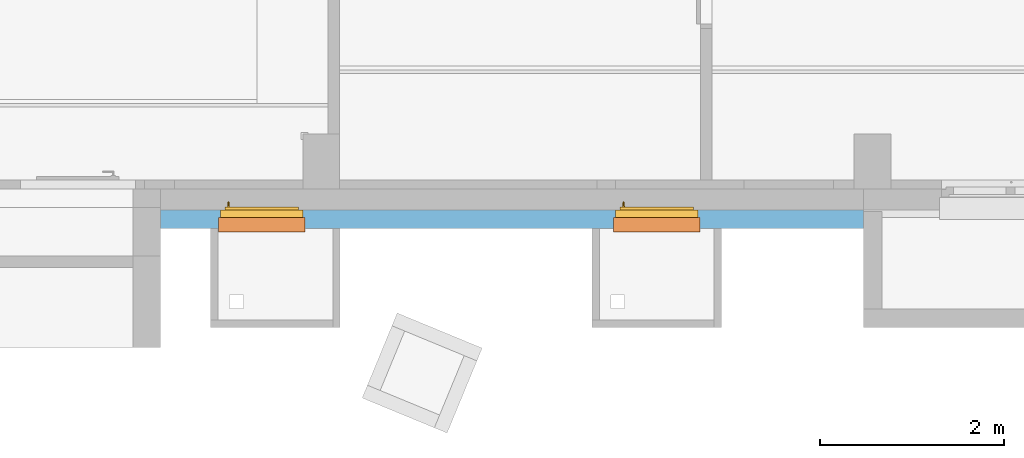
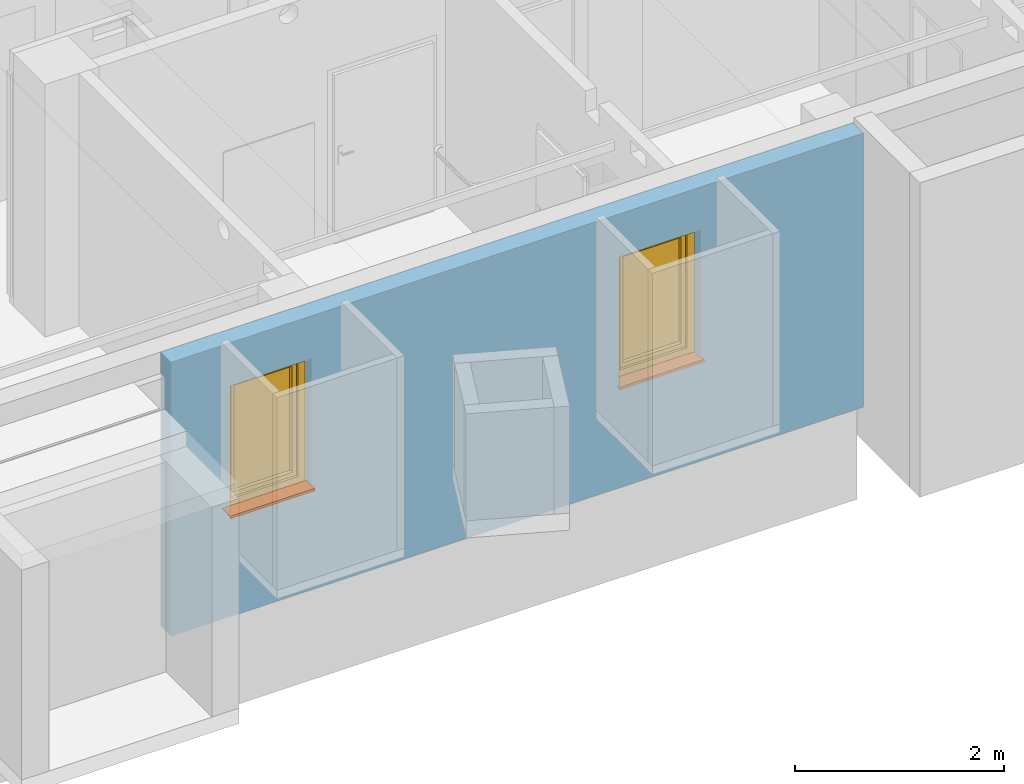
# One storey, part 50 of 84: 3 proxies, 2 windows, 2 openings, plus 1 element that does not belong to this part.
"""IFC4 building model written with IfcOpenShell, lengths in metres."""

from ifc_helpers import new_model, entity, si_unit, converted_unit, derived_unit, frame, frame_2d, origin, origin_with_axes, place, context, subcontext, project, spatial, polyline, rectangle, outline, extrude, closed_shell, open_shell, faceted_brep, surface_model, source, transform, mapped, material, layer, layer_set, layer_usage, element, fill, save


model = new_model("IFC4")

# Units and contexts
model_context = context("Model", 3, precision=1e-05, world=origin())
body_context = subcontext(model_context, "Body", "Model", "MODEL_VIEW")
ifc_project = project(units=[si_unit("LENGTHUNIT", "METRE"), si_unit("AREAUNIT", "SQUARE_METRE"), si_unit("VOLUMEUNIT", "CUBIC_METRE"), si_unit("MASSUNIT", "GRAM", prefix="KILO"), converted_unit("PLANEANGLEUNIT", "DEGREE", entity("IfcPlaneAngleMeasure", 0.0174532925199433), si_unit("PLANEANGLEUNIT", "RADIAN"), dimensions=[0, 0, 0, 0, 0, 0, 0]), derived_unit("THERMALTRANSMITTANCEUNIT", [(si_unit("POWERUNIT", "WATT"), 1), (si_unit("THERMODYNAMICTEMPERATUREUNIT", "KELVIN"), -1), (si_unit("LENGTHUNIT", "METRE"), -2)]), derived_unit("VOLUMETRICFLOWRATEUNIT", [(si_unit("LENGTHUNIT", "METRE"), 3), (converted_unit("TIMEUNIT", "hour", entity("IfcTimeMeasure", 3600.0), si_unit("TIMEUNIT", "SECOND"), dimensions=[0, 0, 1, 0, 0, 0, 0]), -1), (si_unit("LENGTHUNIT", "METRE"), -1)])], contexts=[model_context])

# Site, building, storey
site_placement = place(None, origin())
site = spatial("IfcSite", under=ifc_project, at=site_placement, Name="3. ASŘ", CompositionType="ELEMENT")
building_placement = place(site_placement, origin())
building = spatial("IfcBuilding", under=site, at=building_placement, Name="Pavilon C", CompositionType="ELEMENT")
storey_placement = place(building_placement, frame((0.0, 0.0, -3.3)))
storey = spatial("IfcBuildingStorey", under=building, at=storey_placement, Name="Půdorys 1.PP", CompositionType="ELEMENT", Elevation=-3.3)

# Wall, openings, windows, proxies
ifc_material_1 = material(Name="PERIMETR")
ifc_layer = layer(ifc_material_1, 0.2)
ifc_layer_set = layer_set([ifc_layer])
ifc_layer_usage = layer_usage(ifc_layer_set, "AXIS2", "POSITIVE", 0.0)
wall_placement = place(storey_placement, frame((11.9, 0.375000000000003, 0.0), z_axis=(0.0, 0.0, 1.0), x_axis=(-1.0, 0.0, 0.0)))
wall = element("IfcWall", 1, at=wall_placement, inside=storey, material=ifc_layer_usage, Name="PERIMETR", context=body_context, shape_type="SweptSolid", body=[
    extrude(rectangle(XDim=7.65, YDim=0.2, at=frame_2d((3.825, 0.1), x_axis=(1.0, 0.0))), origin_with_axes(), (0.0, 0.0, 1.0), 3.2),
])
opening_1_placement = place(wall_placement, frame((2.69999999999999, 0.2, 1.2), z_axis=(0.0, -1.0, 0.0), x_axis=(0.0, 0.0, 1.0)))
opening_1 = element("IfcOpeningElement", 2, at=opening_1_placement, cuts=wall, Name="Okenní otvor", ObjectType="Opening", context=body_context, shape_type="SweptSolid", body=[
    extrude(outline(polyline([(0.0, 0.9), (1.5, 0.9), (1.5, 0.0), (0.0, 0.0), (0.0, 0.9)])), origin_with_axes(), (0.0, 0.0, 1.0), 0.2),
])
opening_2_placement = place(wall_placement, frame((7.0, 0.2, 1.2), z_axis=(0.0, -1.0, 0.0), x_axis=(0.0, 0.0, 1.0)))
opening_2 = element("IfcOpeningElement", 3, at=opening_2_placement, cuts=wall, Name="Okenní otvor", ObjectType="Opening", context=body_context, shape_type="SweptSolid", body=[
    extrude(outline(polyline([(0.0, 0.9), (1.5, 0.9), (1.5, 0.0), (0.0, 0.0), (0.0, 0.9)])), origin_with_axes(), (0.0, 0.0, 1.0), 0.2),
])
shared_shape_1 = source(origin_with_axes(), body_context, "Body", "SurfaceModel", [
    surface_model("IfcShellBasedSurfaceModel", [(0.0, 0.0820000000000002, 1.5), (0.0, 0.082, -5.02105187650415e-18), (0.08, 0.082, -5.02105187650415e-18), (0.08, 0.0820000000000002, 1.5), (0.0, 0.0, 5.02105187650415e-18), (0.0, 1.84741111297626e-16, 1.5), (0.08, 1.84741111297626e-16, 1.5), (0.08, 0.0, 5.02105187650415e-18)], [closed_shell([[[0, 1, 2, 3]], [[4, 5, 6, 7]], [[1, 0, 5, 4]], [[2, 1, 4, 7]], [[3, 2, 7, 6]], [[0, 3, 6, 5]]], orient=[[False], [False], [False], [False], [False], [False]])]),
    surface_model("IfcShellBasedSurfaceModel", [(0.82, 0.0820000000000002, 1.5), (0.82, 0.082, -5.02105187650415e-18), (0.9, 0.082, -5.02105187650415e-18), (0.9, 0.0820000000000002, 1.5), (0.82, 0.0, 5.02105187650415e-18), (0.82, 1.84741111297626e-16, 1.5), (0.9, 1.84741111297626e-16, 1.5), (0.9, 0.0, 5.02105187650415e-18)], [closed_shell([[[0, 1, 2, 3]], [[4, 5, 6, 7]], [[1, 0, 5, 4]], [[2, 1, 4, 7]], [[3, 2, 7, 6]], [[0, 3, 6, 5]]], orient=[[False], [False], [False], [False], [False], [False]])]),
    surface_model("IfcShellBasedSurfaceModel", [(0.08, 0.082, 0.08), (0.08, 0.082, -5.02105187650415e-18), (0.82, 0.082, -5.02105187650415e-18), (0.82, 0.082, 0.08), (0.08, 0.0, 5.02105187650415e-18), (0.08, 1.4210854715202e-17, 0.08), (0.82, 1.4210854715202e-17, 0.08), (0.82, 0.0, 5.02105187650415e-18)], [closed_shell([[[0, 1, 2, 3]], [[4, 5, 6, 7]], [[1, 0, 5, 4]], [[2, 1, 4, 7]], [[3, 2, 7, 6]], [[0, 3, 6, 5]]], orient=[[False], [False], [False], [False], [False], [False]])]),
    surface_model("IfcShellBasedSurfaceModel", [(0.08, 0.0820000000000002, 1.5), (0.08, 0.0820000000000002, 1.42), (0.82, 0.0820000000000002, 1.42), (0.82, 0.0820000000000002, 1.5), (0.08, 1.70530256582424e-16, 1.42), (0.08, 1.84741111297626e-16, 1.5), (0.82, 1.84741111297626e-16, 1.5), (0.82, 1.70530256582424e-16, 1.42)], [closed_shell([[[0, 1, 2, 3]], [[4, 5, 6, 7]], [[1, 0, 5, 4]], [[2, 1, 4, 7]], [[3, 2, 7, 6]], [[0, 3, 6, 5]]], orient=[[False], [False], [False], [False], [False], [False]])]),
    surface_model("IfcShellBasedSurfaceModel", [(0.05, 0.112, 1.45), (0.05, 0.112, 0.05), (0.13, 0.112, 0.05), (0.13, 0.112, 1.45), (0.05, 0.027, 0.05), (0.05, 0.0270000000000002, 1.45), (0.13, 0.0270000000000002, 1.45), (0.13, 0.027, 0.05)], [closed_shell([[[0, 1, 2, 3]], [[4, 5, 6, 7]], [[1, 0, 5, 4]], [[2, 1, 4, 7]], [[3, 2, 7, 6]], [[0, 3, 6, 5]]], orient=[[False], [False], [False], [False], [False], [False]])]),
    surface_model("IfcShellBasedSurfaceModel", [(0.77, 0.112, 1.45), (0.77, 0.112, 0.05), (0.85, 0.112, 0.05), (0.85, 0.112, 1.45), (0.77, 0.027, 0.05), (0.77, 0.0270000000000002, 1.45), (0.85, 0.0270000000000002, 1.45), (0.85, 0.027, 0.05)], [closed_shell([[[0, 1, 2, 3]], [[4, 5, 6, 7]], [[1, 0, 5, 4]], [[2, 1, 4, 7]], [[3, 2, 7, 6]], [[0, 3, 6, 5]]], orient=[[False], [False], [False], [False], [False], [False]])]),
    surface_model("IfcShellBasedSurfaceModel", [(0.13, 0.112, 0.13), (0.13, 0.112, 0.05), (0.77, 0.112, 0.05), (0.77, 0.112, 0.13), (0.13, 0.027, 0.05), (0.13, 0.027, 0.13), (0.77, 0.027, 0.13), (0.77, 0.027, 0.05)], [closed_shell([[[0, 1, 2, 3]], [[4, 5, 6, 7]], [[1, 0, 5, 4]], [[2, 1, 4, 7]], [[3, 2, 7, 6]], [[0, 3, 6, 5]]], orient=[[False], [False], [False], [False], [False], [False]])]),
    surface_model("IfcShellBasedSurfaceModel", [(0.13, 0.112, 1.45), (0.13, 0.112, 1.37), (0.77, 0.112, 1.37), (0.77, 0.112, 1.45), (0.13, 0.0270000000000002, 1.37), (0.13, 0.0270000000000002, 1.45), (0.77, 0.0270000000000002, 1.45), (0.77, 0.0270000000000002, 1.37)], [closed_shell([[[0, 1, 2, 3]], [[4, 5, 6, 7]], [[1, 0, 5, 4]], [[2, 1, 4, 7]], [[3, 2, 7, 6]], [[0, 3, 6, 5]]], orient=[[False], [False], [False], [False], [False], [False]])]),
    surface_model("IfcShellBasedSurfaceModel", [(0.0775, 0.112, 0.77), (0.1025, 0.112, 0.77), (0.1025, 0.112, 0.73), (0.0775, 0.112, 0.73), (0.0775, 0.122, 0.73), (0.1025, 0.122, 0.73), (0.1025, 0.122, 0.77), (0.0775, 0.122, 0.77)], [closed_shell([[[0, 1, 2, 3]], [[4, 5, 6, 7]], [[3, 4, 7, 0]], [[2, 5, 4, 3]], [[1, 6, 5, 2]], [[0, 7, 6, 1]]], orient=[[False], [False], [False], [False], [False], [False]])]),
    surface_model("IfcShellBasedSurfaceModel", [(0.1, 0.122, 0.75), (0.0986602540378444, 0.122, 0.745), (0.095, 0.122, 0.741339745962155), (0.09, 0.122, 0.74), (0.085, 0.122, 0.741339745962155), (0.0813397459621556, 0.122, 0.745), (0.08, 0.122, 0.75), (0.0813397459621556, 0.122, 0.755), (0.085, 0.122, 0.758660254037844), (0.09, 0.122, 0.76), (0.095, 0.122, 0.758660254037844), (0.0986602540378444, 0.122, 0.755), (0.0986602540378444, 0.167, 0.755), (0.1, 0.162, 0.75), (0.095, 0.170660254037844, 0.758660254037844), (0.09, 0.172, 0.76), (0.085, 0.170660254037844, 0.758660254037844), (0.0813397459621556, 0.167, 0.755), (0.08, 0.162, 0.75), (0.0813397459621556, 0.157, 0.745), (0.085, 0.153339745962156, 0.741339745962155), (0.09, 0.152, 0.74), (0.095, 0.153339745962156, 0.741339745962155), (0.0986602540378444, 0.157, 0.745), (0.0986602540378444, 0.167, 0.635), (0.1, 0.162, 0.635), (0.095, 0.170660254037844, 0.635), (0.09, 0.172, 0.635), (0.085, 0.170660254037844, 0.635), (0.0813397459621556, 0.167, 0.635), (0.08, 0.162, 0.635), (0.0813397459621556, 0.157, 0.635), (0.085, 0.153339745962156, 0.635), (0.09, 0.152, 0.635), (0.095, 0.153339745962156, 0.635), (0.0986602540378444, 0.157, 0.635)], [open_shell([[[0, 1, 2, 3, 4, 5, 6, 7, 8, 9, 10, 11]], [[0, 11, 12, 13]], [[11, 10, 14, 12]], [[10, 9, 15, 14]], [[9, 8, 16, 15]], [[8, 7, 17, 16]], [[7, 6, 18, 17]], [[6, 5, 19, 18]], [[5, 4, 20, 19]], [[4, 3, 21, 20]], [[3, 2, 22, 21]], [[2, 1, 23, 22]], [[1, 0, 13, 23]], [[13, 12, 24, 25]], [[12, 14, 26, 24]], [[14, 15, 27, 26]], [[15, 16, 28, 27]], [[16, 17, 29, 28]], [[17, 18, 30, 29]], [[18, 19, 31, 30]], [[19, 20, 32, 31]], [[20, 21, 33, 32]], [[21, 22, 34, 33]], [[22, 23, 35, 34]], [[23, 13, 25, 35]]], orient=[[False], [False], [False], [False], [False], [False], [False], [False], [False], [False], [False], [False], [False], [False], [False], [False], [False], [False], [False], [False], [False], [False], [False], [False], [False]])]),
    surface_model("IfcShellBasedSurfaceModel", [(0.13, 0.0695, 0.13), (0.77, 0.0695, 0.13), (0.77, 0.0695000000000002, 1.37), (0.13, 0.0695000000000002, 1.37)], [open_shell([[[0, 1, 2, 3]]], orient=[[False]])]),
])
window_1_placement = place(opening_1_placement, frame((0.0, 0.0, 0.118), z_axis=(1.0, 0.0, 0.0), x_axis=(0.0, 1.0, 0.0)))
window_1 = element("IfcWindow", 4, at=window_1_placement, inside=storey, Name="I.OP10", OverallHeight=1.5, OverallWidth=0.9, PartitioningType="USERDEFINED", PredefinedType="WINDOW", context=body_context, shape_type="MappedRepresentation", body=[
    mapped(shared_shape_1, transform((0.0, 0.0, 0.0), x_axis=(1.0, 0.0, 0.0), y_axis=(0.0, 1.0, 0.0), z_axis=(0.0, 0.0, 1.0), scale=1.0)),
])
fill(opening_1, window_1)
shared_shape_2 = source(origin_with_axes(), body_context, "Body", "SurfaceModel", [
    surface_model("IfcShellBasedSurfaceModel", [(0.0, 0.0820000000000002, 1.5), (0.0, 0.082, -5.02105187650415e-18), (0.08, 0.082, -5.02105187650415e-18), (0.08, 0.0820000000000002, 1.5), (0.0, 0.0, 5.02105187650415e-18), (0.0, 1.84741111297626e-16, 1.5), (0.08, 1.84741111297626e-16, 1.5), (0.08, 0.0, 5.02105187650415e-18)], [closed_shell([[[0, 1, 2, 3]], [[4, 5, 6, 7]], [[1, 0, 5, 4]], [[2, 1, 4, 7]], [[3, 2, 7, 6]], [[0, 3, 6, 5]]], orient=[[False], [False], [False], [False], [False], [False]])]),
    surface_model("IfcShellBasedSurfaceModel", [(0.82, 0.0820000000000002, 1.5), (0.82, 0.082, -5.02105187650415e-18), (0.9, 0.082, -5.02105187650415e-18), (0.9, 0.0820000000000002, 1.5), (0.82, 0.0, 5.02105187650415e-18), (0.82, 1.84741111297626e-16, 1.5), (0.9, 1.84741111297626e-16, 1.5), (0.9, 0.0, 5.02105187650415e-18)], [closed_shell([[[0, 1, 2, 3]], [[4, 5, 6, 7]], [[1, 0, 5, 4]], [[2, 1, 4, 7]], [[3, 2, 7, 6]], [[0, 3, 6, 5]]], orient=[[False], [False], [False], [False], [False], [False]])]),
    surface_model("IfcShellBasedSurfaceModel", [(0.08, 0.082, 0.08), (0.08, 0.082, -5.02105187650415e-18), (0.82, 0.082, -5.02105187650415e-18), (0.82, 0.082, 0.08), (0.08, 0.0, 5.02105187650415e-18), (0.08, 1.4210854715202e-17, 0.08), (0.82, 1.4210854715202e-17, 0.08), (0.82, 0.0, 5.02105187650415e-18)], [closed_shell([[[0, 1, 2, 3]], [[4, 5, 6, 7]], [[1, 0, 5, 4]], [[2, 1, 4, 7]], [[3, 2, 7, 6]], [[0, 3, 6, 5]]], orient=[[False], [False], [False], [False], [False], [False]])]),
    surface_model("IfcShellBasedSurfaceModel", [(0.08, 0.0820000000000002, 1.5), (0.08, 0.0820000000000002, 1.42), (0.82, 0.0820000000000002, 1.42), (0.82, 0.0820000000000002, 1.5), (0.08, 1.70530256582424e-16, 1.42), (0.08, 1.84741111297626e-16, 1.5), (0.82, 1.84741111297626e-16, 1.5), (0.82, 1.70530256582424e-16, 1.42)], [closed_shell([[[0, 1, 2, 3]], [[4, 5, 6, 7]], [[1, 0, 5, 4]], [[2, 1, 4, 7]], [[3, 2, 7, 6]], [[0, 3, 6, 5]]], orient=[[False], [False], [False], [False], [False], [False]])]),
    surface_model("IfcShellBasedSurfaceModel", [(0.05, 0.112, 1.45), (0.05, 0.112, 0.05), (0.13, 0.112, 0.05), (0.13, 0.112, 1.45), (0.05, 0.027, 0.05), (0.05, 0.0270000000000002, 1.45), (0.13, 0.0270000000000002, 1.45), (0.13, 0.027, 0.05)], [closed_shell([[[0, 1, 2, 3]], [[4, 5, 6, 7]], [[1, 0, 5, 4]], [[2, 1, 4, 7]], [[3, 2, 7, 6]], [[0, 3, 6, 5]]], orient=[[False], [False], [False], [False], [False], [False]])]),
    surface_model("IfcShellBasedSurfaceModel", [(0.77, 0.112, 1.45), (0.77, 0.112, 0.05), (0.85, 0.112, 0.05), (0.85, 0.112, 1.45), (0.77, 0.027, 0.05), (0.77, 0.0270000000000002, 1.45), (0.85, 0.0270000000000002, 1.45), (0.85, 0.027, 0.05)], [closed_shell([[[0, 1, 2, 3]], [[4, 5, 6, 7]], [[1, 0, 5, 4]], [[2, 1, 4, 7]], [[3, 2, 7, 6]], [[0, 3, 6, 5]]], orient=[[False], [False], [False], [False], [False], [False]])]),
    surface_model("IfcShellBasedSurfaceModel", [(0.13, 0.112, 0.13), (0.13, 0.112, 0.05), (0.77, 0.112, 0.05), (0.77, 0.112, 0.13), (0.13, 0.027, 0.05), (0.13, 0.027, 0.13), (0.77, 0.027, 0.13), (0.77, 0.027, 0.05)], [closed_shell([[[0, 1, 2, 3]], [[4, 5, 6, 7]], [[1, 0, 5, 4]], [[2, 1, 4, 7]], [[3, 2, 7, 6]], [[0, 3, 6, 5]]], orient=[[False], [False], [False], [False], [False], [False]])]),
    surface_model("IfcShellBasedSurfaceModel", [(0.13, 0.112, 1.45), (0.13, 0.112, 1.37), (0.77, 0.112, 1.37), (0.77, 0.112, 1.45), (0.13, 0.0270000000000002, 1.37), (0.13, 0.0270000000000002, 1.45), (0.77, 0.0270000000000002, 1.45), (0.77, 0.0270000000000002, 1.37)], [closed_shell([[[0, 1, 2, 3]], [[4, 5, 6, 7]], [[1, 0, 5, 4]], [[2, 1, 4, 7]], [[3, 2, 7, 6]], [[0, 3, 6, 5]]], orient=[[False], [False], [False], [False], [False], [False]])]),
    surface_model("IfcShellBasedSurfaceModel", [(0.0775, 0.112, 0.77), (0.1025, 0.112, 0.77), (0.1025, 0.112, 0.73), (0.0775, 0.112, 0.73), (0.0775, 0.122, 0.73), (0.1025, 0.122, 0.73), (0.1025, 0.122, 0.77), (0.0775, 0.122, 0.77)], [closed_shell([[[0, 1, 2, 3]], [[4, 5, 6, 7]], [[3, 4, 7, 0]], [[2, 5, 4, 3]], [[1, 6, 5, 2]], [[0, 7, 6, 1]]], orient=[[False], [False], [False], [False], [False], [False]])]),
    surface_model("IfcShellBasedSurfaceModel", [(0.1, 0.122, 0.75), (0.0986602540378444, 0.122, 0.745), (0.095, 0.122, 0.741339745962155), (0.09, 0.122, 0.74), (0.085, 0.122, 0.741339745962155), (0.0813397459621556, 0.122, 0.745), (0.08, 0.122, 0.75), (0.0813397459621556, 0.122, 0.755), (0.085, 0.122, 0.758660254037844), (0.09, 0.122, 0.76), (0.095, 0.122, 0.758660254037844), (0.0986602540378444, 0.122, 0.755), (0.0986602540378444, 0.167, 0.755), (0.1, 0.162, 0.75), (0.095, 0.170660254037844, 0.758660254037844), (0.09, 0.172, 0.76), (0.085, 0.170660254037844, 0.758660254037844), (0.0813397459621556, 0.167, 0.755), (0.08, 0.162, 0.75), (0.0813397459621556, 0.157, 0.745), (0.085, 0.153339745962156, 0.741339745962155), (0.09, 0.152, 0.74), (0.095, 0.153339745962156, 0.741339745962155), (0.0986602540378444, 0.157, 0.745), (0.0986602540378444, 0.167, 0.635), (0.1, 0.162, 0.635), (0.095, 0.170660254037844, 0.635), (0.09, 0.172, 0.635), (0.085, 0.170660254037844, 0.635), (0.0813397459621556, 0.167, 0.635), (0.08, 0.162, 0.635), (0.0813397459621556, 0.157, 0.635), (0.085, 0.153339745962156, 0.635), (0.09, 0.152, 0.635), (0.095, 0.153339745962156, 0.635), (0.0986602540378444, 0.157, 0.635)], [open_shell([[[0, 1, 2, 3, 4, 5, 6, 7, 8, 9, 10, 11]], [[0, 11, 12, 13]], [[11, 10, 14, 12]], [[10, 9, 15, 14]], [[9, 8, 16, 15]], [[8, 7, 17, 16]], [[7, 6, 18, 17]], [[6, 5, 19, 18]], [[5, 4, 20, 19]], [[4, 3, 21, 20]], [[3, 2, 22, 21]], [[2, 1, 23, 22]], [[1, 0, 13, 23]], [[13, 12, 24, 25]], [[12, 14, 26, 24]], [[14, 15, 27, 26]], [[15, 16, 28, 27]], [[16, 17, 29, 28]], [[17, 18, 30, 29]], [[18, 19, 31, 30]], [[19, 20, 32, 31]], [[20, 21, 33, 32]], [[21, 22, 34, 33]], [[22, 23, 35, 34]], [[23, 13, 25, 35]]], orient=[[False], [False], [False], [False], [False], [False], [False], [False], [False], [False], [False], [False], [False], [False], [False], [False], [False], [False], [False], [False], [False], [False], [False], [False], [False]])]),
    surface_model("IfcShellBasedSurfaceModel", [(0.13, 0.0695, 0.13), (0.77, 0.0695, 0.13), (0.77, 0.0695000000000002, 1.37), (0.13, 0.0695000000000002, 1.37)], [open_shell([[[0, 1, 2, 3]]], orient=[[False]])]),
])
window_2_placement = place(opening_2_placement, frame((0.0, 0.0, 0.118), z_axis=(1.0, 0.0, 0.0), x_axis=(0.0, 1.0, 0.0)))
window_2 = element("IfcWindow", 5, at=window_2_placement, inside=storey, Name="I.OP09a", OverallHeight=1.5, OverallWidth=0.9, PartitioningType="USERDEFINED", PredefinedType="WINDOW", context=body_context, shape_type="MappedRepresentation", body=[
    mapped(shared_shape_2, transform((0.0, 0.0, 0.0), x_axis=(1.0, 0.0, 0.0), y_axis=(0.0, 1.0, 0.0), z_axis=(0.0, 0.0, 1.0), scale=1.0)),
])
fill(opening_2, window_2)
ifc_material_2 = material(Name="HLINÍKOVÝ PLECH ELOXOVANÝ")
shared_shape_3 = source(origin_with_axes(), body_context, "Body", "Brep", [
    faceted_brep([(0.0, 0.0, 0.0), (0.0, 0.118, 0.0), (0.0, 0.118, 0.005), (0.0, 0.0, 0.005), (0.9, 0.0, 0.0), (0.9, 0.0, 0.005), (0.9, 0.118, 0.005), (0.9, 0.118, 0.0), (-0.02, 0.0, 0.0), (-0.02, -0.035, 0.0), (0.92, -0.035, 0.0), (0.92, 0.0, 0.0), (0.92, 0.0, 0.005), (0.92, -0.04, 0.005), (-0.02, -0.04, 0.005), (-0.02, 0.0, 0.005), (-0.02, -0.04, -0.025), (-0.02, -0.035, -0.025), (0.92, -0.035, -0.025), (0.92, -0.04, -0.025)], [[[0, 1, 2, 3]], [[4, 5, 6, 7]], [[1, 0, 8, 9, 10, 11, 4, 7]], [[2, 1, 7, 6]], [[3, 2, 6, 5, 12, 13, 14, 15]], [[8, 15, 14, 16, 17, 9]], [[11, 10, 18, 19, 13, 12]], [[15, 8, 0, 3]], [[5, 4, 11, 12]], [[16, 14, 13, 19]], [[17, 16, 19, 18]], [[9, 17, 18, 10]]], orient=[[False], [False], [False], [False], [False], [False], [False], [False], [False], [False], [False], [False]]),
    faceted_brep([(-0.02, 0.0, 0.0), (-0.02, 0.118, 0.0), (-0.02, 0.118, 0.005), (-0.02, 0.0, 0.005), (0.0, 0.0, 0.0), (0.0, 0.0, 0.005), (0.0, 0.118, 0.005), (0.0, 0.118, 0.0)], [[[0, 1, 2, 3]], [[4, 5, 6, 7]], [[1, 0, 4, 7]], [[2, 1, 7, 6]], [[3, 2, 6, 5]], [[0, 3, 5, 4]]], orient=[[False], [False], [False], [False], [False], [False]]),
    faceted_brep([(0.9, 0.0, 0.0), (0.9, 0.118, 0.0), (0.9, 0.118, 0.005), (0.9, 0.0, 0.005), (0.92, 0.0, 0.0), (0.92, 0.0, 0.005), (0.92, 0.118, 0.005), (0.92, 0.118, 0.0)], [[[0, 1, 2, 3]], [[4, 5, 6, 7]], [[1, 0, 4, 7]], [[2, 1, 7, 6]], [[3, 2, 6, 5]], [[0, 3, 5, 4]]], orient=[[False], [False], [False], [False], [False], [False]]),
])
proxy_1_placement = place(opening_1_placement, frame((0.0, 0.0, 0.0), z_axis=(1.0, 0.0, 0.0), x_axis=(0.0, 1.0, 0.0)))
proxy_1 = element("IfcBuildingElementProxy", 6, at=proxy_1_placement, inside=storey, material=ifc_material_2, Name="Parapet vnější", context=body_context, shape_type="MappedRepresentation", body=[
    mapped(shared_shape_3, transform((0.0, 0.0, 0.0), x_axis=(1.0, 0.0, 0.0), y_axis=(0.0, 1.0, 0.0), z_axis=(0.0, 0.0, 1.0), scale=1.0)),
])
fill(opening_1, proxy_1)
ifc_material_3 = material()
shared_shape_4 = source(origin_with_axes(), body_context, "Body", "Brep", [
    faceted_brep([(0.0, 0.0, 0.0), (0.0, 0.118, 0.0), (0.0, 0.118, 0.005), (0.0, 0.0, 0.005), (0.9, 0.0, 0.0), (0.9, 0.0, 0.005), (0.9, 0.118, 0.005), (0.9, 0.118, 0.0), (-0.02, 0.0, 0.0), (-0.02, -0.035, 0.0), (0.92, -0.035, 0.0), (0.92, 0.0, 0.0), (0.92, 0.0, 0.005), (0.92, -0.04, 0.005), (-0.02, -0.04, 0.005), (-0.02, 0.0, 0.005), (-0.02, -0.04, -0.025), (-0.02, -0.035, -0.025), (0.92, -0.035, -0.025), (0.92, -0.04, -0.025)], [[[0, 1, 2, 3]], [[4, 5, 6, 7]], [[1, 0, 8, 9, 10, 11, 4, 7]], [[2, 1, 7, 6]], [[3, 2, 6, 5, 12, 13, 14, 15]], [[8, 15, 14, 16, 17, 9]], [[11, 10, 18, 19, 13, 12]], [[15, 8, 0, 3]], [[5, 4, 11, 12]], [[16, 14, 13, 19]], [[17, 16, 19, 18]], [[9, 17, 18, 10]]], orient=[[False], [False], [False], [False], [False], [False], [False], [False], [False], [False], [False], [False]]),
    faceted_brep([(-0.02, 0.0, 0.0), (-0.02, 0.118, 0.0), (-0.02, 0.118, 0.005), (-0.02, 0.0, 0.005), (0.0, 0.0, 0.0), (0.0, 0.0, 0.005), (0.0, 0.118, 0.005), (0.0, 0.118, 0.0)], [[[0, 1, 2, 3]], [[4, 5, 6, 7]], [[1, 0, 4, 7]], [[2, 1, 7, 6]], [[3, 2, 6, 5]], [[0, 3, 5, 4]]], orient=[[False], [False], [False], [False], [False], [False]]),
    faceted_brep([(0.9, 0.0, 0.0), (0.9, 0.118, 0.0), (0.9, 0.118, 0.005), (0.9, 0.0, 0.005), (0.92, 0.0, 0.0), (0.92, 0.0, 0.005), (0.92, 0.118, 0.005), (0.92, 0.118, 0.0)], [[[0, 1, 2, 3]], [[4, 5, 6, 7]], [[1, 0, 4, 7]], [[2, 1, 7, 6]], [[3, 2, 6, 5]], [[0, 3, 5, 4]]], orient=[[False], [False], [False], [False], [False], [False]]),
])
proxy_2_placement = place(opening_2_placement, frame((0.0, 0.0, 0.0), z_axis=(1.0, 0.0, 0.0), x_axis=(0.0, 1.0, 0.0)))
proxy_2 = element("IfcBuildingElementProxy", 7, at=proxy_2_placement, inside=storey, material=ifc_material_3, Name="Parapet vnější", context=body_context, shape_type="MappedRepresentation", body=[
    mapped(shared_shape_4, transform((0.0, 0.0, 0.0), x_axis=(1.0, 0.0, 0.0), y_axis=(0.0, 1.0, 0.0), z_axis=(0.0, 0.0, 1.0), scale=1.0)),
])
fill(opening_2, proxy_2)
ifc_material_4 = material()
shared_shape_5 = source(origin_with_axes(), body_context, "Body", "Brep", [
    faceted_brep([(0.0, 0.0, 0.0), (0.0, 0.118, 0.0), (0.0, 0.118, 0.005), (0.0, 0.0, 0.005), (0.9, 0.0, 0.0), (0.9, 0.0, 0.005), (0.9, 0.118, 0.005), (0.9, 0.118, 0.0), (-0.02, 0.0, 0.0), (-0.02, -0.035, 0.0), (0.92, -0.035, 0.0), (0.92, 0.0, 0.0), (0.92, 0.0, 0.005), (0.92, -0.04, 0.005), (-0.02, -0.04, 0.005), (-0.02, 0.0, 0.005), (-0.02, -0.04, -0.025), (-0.02, -0.035, -0.025), (0.92, -0.035, -0.025), (0.92, -0.04, -0.025)], [[[0, 1, 2, 3]], [[4, 5, 6, 7]], [[1, 0, 8, 9, 10, 11, 4, 7]], [[2, 1, 7, 6]], [[3, 2, 6, 5, 12, 13, 14, 15]], [[8, 15, 14, 16, 17, 9]], [[11, 10, 18, 19, 13, 12]], [[15, 8, 0, 3]], [[5, 4, 11, 12]], [[16, 14, 13, 19]], [[17, 16, 19, 18]], [[9, 17, 18, 10]]], orient=[[False], [False], [False], [False], [False], [False], [False], [False], [False], [False], [False], [False]]),
    faceted_brep([(-0.02, 0.0, 0.0), (-0.02, 0.118, 0.0), (-0.02, 0.118, 0.005), (-0.02, 0.0, 0.005), (0.0, 0.0, 0.0), (0.0, 0.0, 0.005), (0.0, 0.118, 0.005), (0.0, 0.118, 0.0)], [[[0, 1, 2, 3]], [[4, 5, 6, 7]], [[1, 0, 4, 7]], [[2, 1, 7, 6]], [[3, 2, 6, 5]], [[0, 3, 5, 4]]], orient=[[False], [False], [False], [False], [False], [False]]),
    faceted_brep([(0.9, 0.0, 0.0), (0.9, 0.118, 0.0), (0.9, 0.118, 0.005), (0.9, 0.0, 0.005), (0.92, 0.0, 0.0), (0.92, 0.0, 0.005), (0.92, 0.118, 0.005), (0.92, 0.118, 0.0)], [[[0, 1, 2, 3]], [[4, 5, 6, 7]], [[1, 0, 4, 7]], [[2, 1, 7, 6]], [[3, 2, 6, 5]], [[0, 3, 5, 4]]], orient=[[False], [False], [False], [False], [False], [False]]),
])
proxy_3_placement = place(opening_2_placement, frame((0.0, 0.0, 0.0), z_axis=(1.0, 0.0, 0.0), x_axis=(0.0, 1.0, 0.0)))
proxy_3 = element("IfcBuildingElementProxy", 8, at=proxy_3_placement, inside=storey, material=ifc_material_4, Name="Parapet vnější", context=body_context, shape_type="MappedRepresentation", body=[
    mapped(shared_shape_5, transform((0.0, 0.0, 0.0), x_axis=(1.0, 0.0, 0.0), y_axis=(0.0, 1.0, 0.0), z_axis=(0.0, 0.0, 1.0), scale=1.0)),
])
fill(opening_2, proxy_3)

save(model, "model.ifc")
